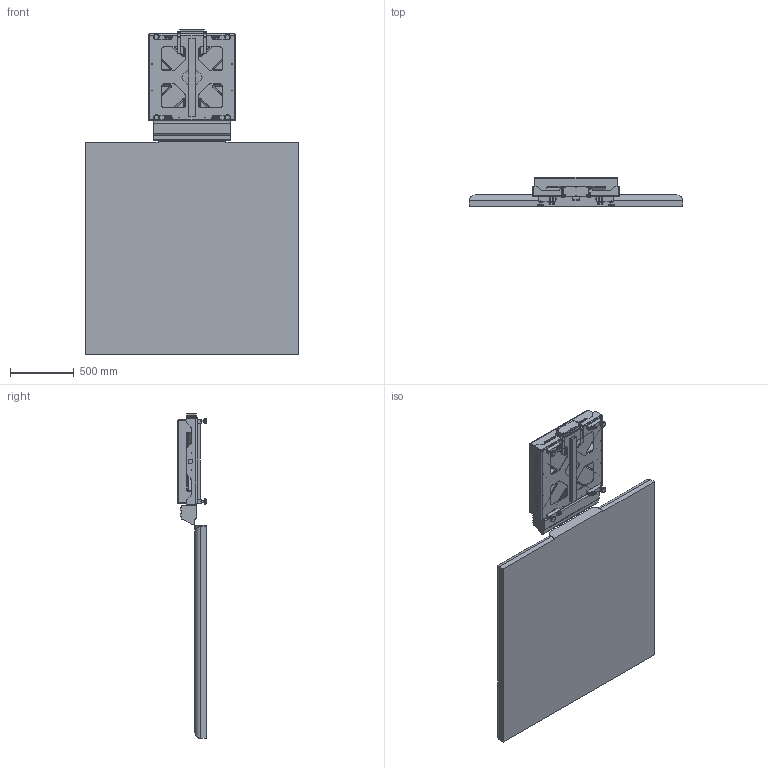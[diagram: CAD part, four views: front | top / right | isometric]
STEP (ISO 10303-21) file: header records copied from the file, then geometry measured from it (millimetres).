
FILE_DESCRIPTION (( 'STEP AP214' ), '1' );
FILE_NAME ('4042-26 WITH BLADDER.STEP', '2022-01-07T17:55:12', ( '' ), ( '' ), 'SwSTEP 2.0', 'SolidWorks 2019', '' );
FILE_SCHEMA (( 'AUTOMOTIVE_DESIGN' ));
Length unit declared in the file: inch
Products named in the file (1): 4042-26 WITH BLADDER
Bounding box: 1676.4 x 224.45 x 2549.6 mm (x, y, z)
Surface area: 9921779.1 mm2 (no closed solid volume)
Topology: 0 solids, 120 shells, 1105 faces, 3858 edges, 2792 vertices
Faces by surface type: plane 769, cylinder 244, bspline 36, cone 31, torus 16, sphere 9
Full cylindrical faces by diameter (mm): 5.105 x9, 6.096 x2, 6.629 x6, 7.938 x4, 9.525 x2, 12.268 x3, 12.667 x4, 20.65 x8, 34.925 x2, 35.56 x1, 37.973 x4, 44.45 x4
Entity records: 96383 total; most frequent: CARTESIAN_POINT 50610, DIRECTION 6138, ORIENTED_EDGE 5625, EDGE_CURVE 3741, VERTEX_POINT 2755, LINE 2574, VECTOR 2574, AXIS2_PLACEMENT_3D 1782
